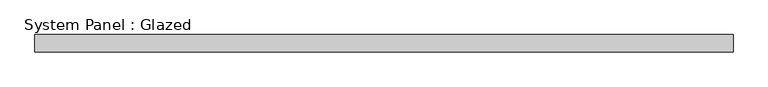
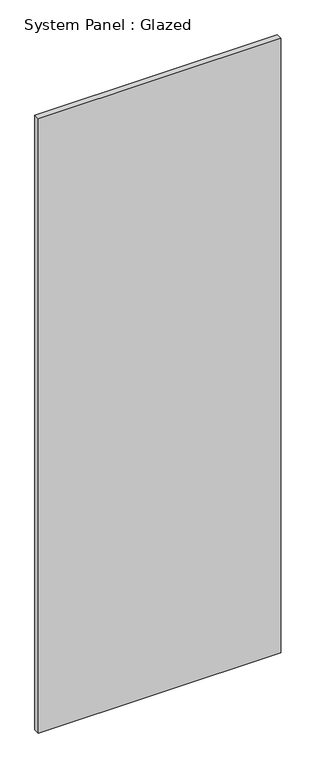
"""IFC4 building model written with IfcOpenShell, lengths in millimetres: plate geometry, System Panel : Glazed."""

from ifc_helpers import new_model, si_unit, origin, origin_with_axes, place, context, project, spatial, polyline, outline, extrude, source, transform, mapped, element, save


def system_panel_glazed_cad9babb(model_context):
    return source(origin(), model_context, "Body", "SweptSolid", [
        extrude(outline(polyline([(508.7499919, -72.5), (-508.7499919, -72.5), (-508.7499919, -47.5), (508.7499919, -47.5), (508.7499919, -72.5)])), origin_with_axes(), (0.0, 0.0, 1.0), 2725.0),
    ])


if __name__ == "__main__":
    model = new_model("IFC4")
    model_context = context("Model", 3, world=origin())
    ifc_project = project(units=[si_unit("LENGTHUNIT", "METRE", prefix="MILLI")], contexts=[model_context])
    site = spatial("IfcSite", under=ifc_project)
    building = spatial("IfcBuilding", under=site)
    placement = place(None, origin())
    system_panel_glazed_shape = system_panel_glazed_cad9babb(model_context)
    element("IfcPlate", 1, ObjectType="System Panel : Glazed", at=placement, inside=building, context=model_context, shape_type="MappedRepresentation", body=[
        mapped(system_panel_glazed_shape, transform((0.0, 0.0, 0.0), x_axis=(1.0, 0.0, 0.0), y_axis=(0.0, 1.0, 0.0), z_axis=(0.0, 0.0, 1.0))),
    ])
    save(model, "model.ifc")
